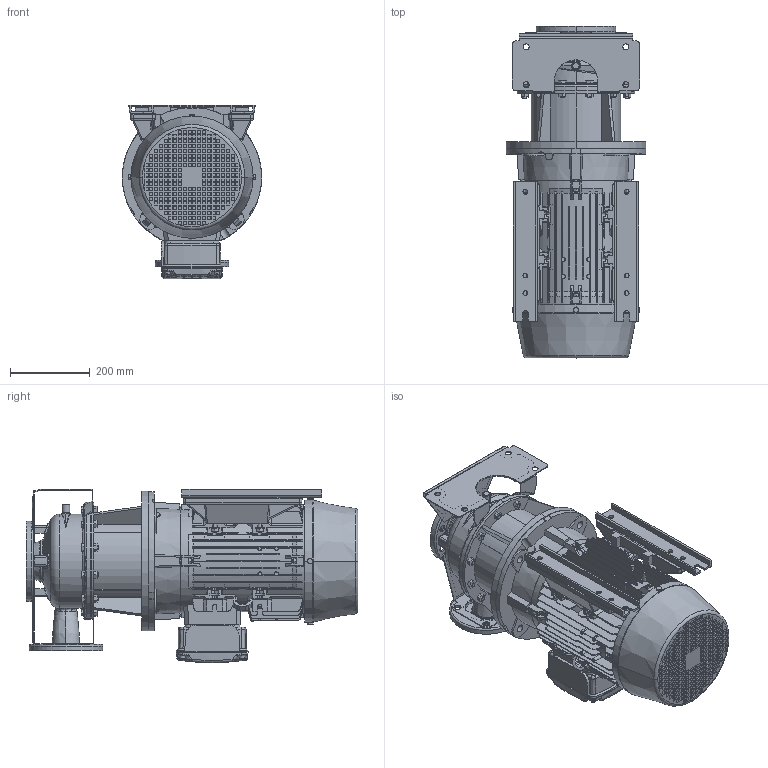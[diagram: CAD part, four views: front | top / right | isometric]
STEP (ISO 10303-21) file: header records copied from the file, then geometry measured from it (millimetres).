
FILE_DESCRIPTION (( 'STEP AP214' ), '1' );
FILE_NAME ('3LS 65-200_15.0 & 18.5_(160ML)_W21.STEP', '2026-09-08T23:52:16', ( '' ), ( '' ), 'SwSTEP 2.0', 'SolidWorks 2024', '' );
FILE_SCHEMA (( 'AUTOMOTIVE_DESIGN' ));
Length unit declared in the file: inch
Products named in the file (3): 3LS 65-200_15.0 & 18.5_(160ML)_W21; 65-200_15_ie2_STEP; 160M_L_ALIE3_W21T_B35
Assembly tree (2 placements, depth 2):
  3LS 65-200_15.0 & 18.5_(160ML)_W21
    65-200_15_ie2_STEP
    160M_L_ALIE3_W21T_B35
Bounding box: 350 x 832.3 x 434.5 mm (x, y, z)
Volume: 43197585.6 mm3; surface area: 3226241.4 mm2
Topology: 40 solids, 46 shells, 5425 faces, 14027 edges, 9125 vertices
Faces by surface type: plane 3624, cylinder 835, cone 455, bspline 358, torus 133, sphere 20
Entity records: 193984 total; most frequent: CARTESIAN_POINT 65293, ORIENTED_EDGE 28010, DIRECTION 24062, EDGE_CURVE 14005, LINE 9474, VECTOR 9474, VERTEX_POINT 9125, AXIS2_PLACEMENT_3D 7294
